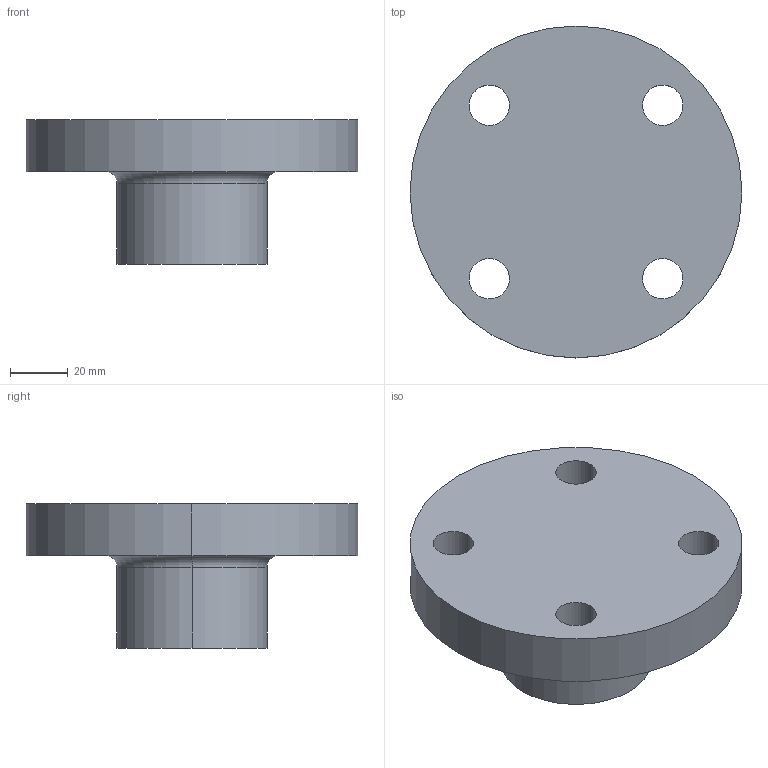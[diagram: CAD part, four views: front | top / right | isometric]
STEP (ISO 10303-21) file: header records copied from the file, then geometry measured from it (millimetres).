
FILE_DESCRIPTION (( 'STEP AP214' ), '1' );
FILE_NAME ('PN40 DN25 Type 21(i) - Type A Face.STEP', '2018-12-29T20:21:58', ( '' ), ( '' ), 'SwSTEP 2.0', 'SolidWorks 2019', '' );
FILE_SCHEMA (( 'AUTOMOTIVE_DESIGN' ));
Length unit declared in the file: millimetre
Products named in the file (1): PN40 DN25 Type 21(i) - Type A Face
Bounding box: 115 x 115 x 50 mm (x, y, z)
Volume: 244419.6 mm3; surface area: 34166.4 mm2
Topology: 1 solids, 1 shells, 17 faces, 40 edges, 26 vertices
Faces by surface type: cylinder 12, plane 3, torus 2
Entity records: 556 total; most frequent: DIRECTION 104, CARTESIAN_POINT 84, ORIENTED_EDGE 80, AXIS2_PLACEMENT_3D 46, EDGE_CURVE 40, CIRCLE 28, VERTEX_POINT 26, EDGE_LOOP 26
